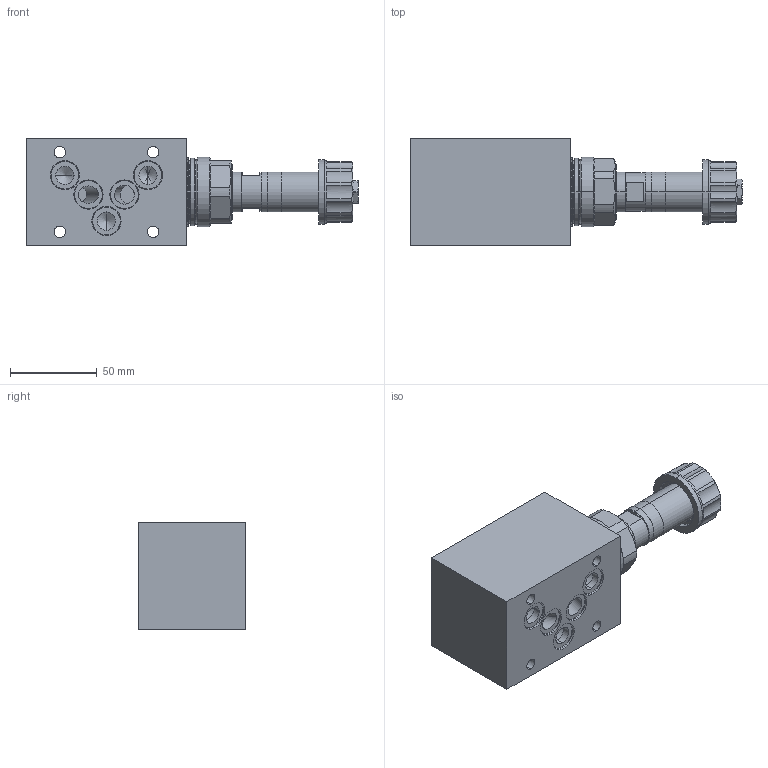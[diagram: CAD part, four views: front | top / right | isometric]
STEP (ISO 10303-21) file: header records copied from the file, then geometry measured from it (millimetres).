
FILE_DESCRIPTION (( 'STEP AP214' ), '1' );
FILE_NAME ('DNPFA10-A_B.STEP', '2017-04-19T10:52:01', ( '' ), ( '' ), 'SwSTEP 2.0', 'SolidWorks 2016', '' );
FILE_SCHEMA (( 'AUTOMOTIVE_DESIGN' ));
Length unit declared in the file: millimetre
Products named in the file (1): DNPFA10-A_B
Bounding box: 191.9 x 62 x 62 mm (x, y, z)
Volume: 410740 mm3; surface area: 53183.3 mm2
Topology: 2 solids, 3 shells, 438 faces, 1072 edges, 681 vertices
Faces by surface type: plane 204, cylinder 107, cone 78, bspline 25, torus 24
Entity records: 19063 total; most frequent: CARTESIAN_POINT 3915, DIRECTION 2138, ORIENTED_EDGE 2124, EDGE_CURVE 1062, AXIS2_PLACEMENT_3D 776, VERTEX_POINT 681, LINE 586, VECTOR 586
